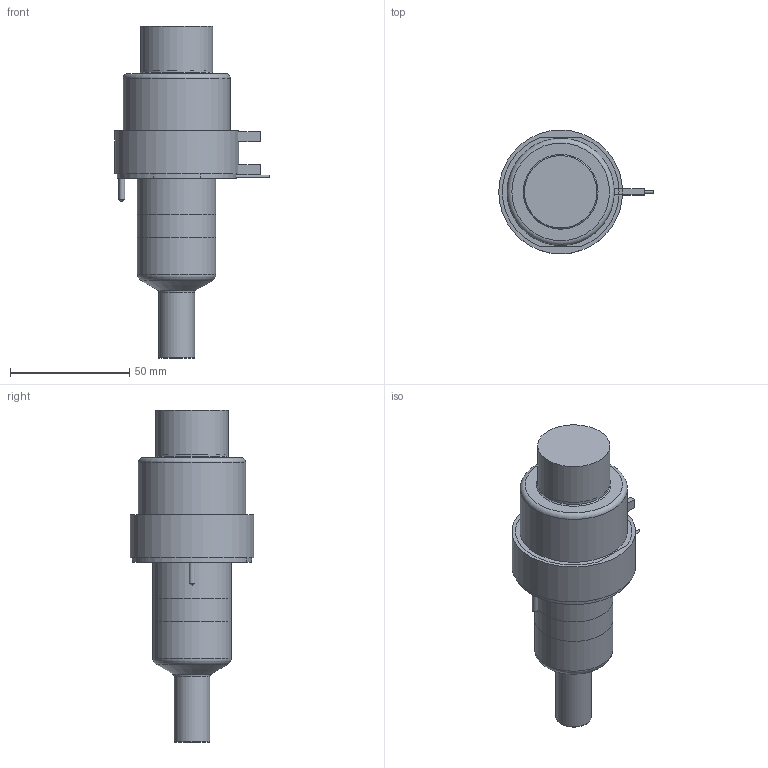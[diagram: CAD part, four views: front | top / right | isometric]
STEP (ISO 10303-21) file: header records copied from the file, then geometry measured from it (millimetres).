
FILE_DESCRIPTION(/* description */ (''),/* implementation_level */ '2;1');
FILE_NAME(/* name */ 'SXTSX-SXISX-SXOSX19055_200C_b',/* time_stamp */ '2008-04-30T09:07:09+12:00',/* author */ (''),/* organization */ (''),/* preprocessor_version */ 'ST-DEVELOPER v9',/* originating_system */ 'UGS - NX 4.0',/* authorisation */ '');
FILE_SCHEMA (('CONFIG_CONTROL_DESIGN'));
Length unit declared in the file: millimetre
Products named in the file (1): SXTSX-SXISX-SXOSX19055_200C_b
Bounding box: 64.85 x 52 x 139.4 mm (x, y, z)
Volume: 243928.2 mm3; surface area: 38018.6 mm2
Topology: 7 solids, 7 shells, 92 faces, 180 edges, 116 vertices
Faces by surface type: plane 45, cylinder 28, torus 9, cone 9, bspline 1
Full cylindrical faces by diameter (mm): 1 x3, 1.2 x1, 2.5 x2, 8 x1, 14.61 x1, 15.01 x2, 18.3 x1, 28.6 x1, 30 x1, 30.4 x1, 33 x2, 38.1 x1, 45 x1, 50 x1, 52 x1
Entity records: 2250 total; most frequent: CARTESIAN_POINT 438, DIRECTION 382, ORIENTED_EDGE 268, AXIS2_PLACEMENT_3D 166, EDGE_LOOP 142, EDGE_CURVE 134, VERTEX_POINT 107, ADVANCED_FACE 92
